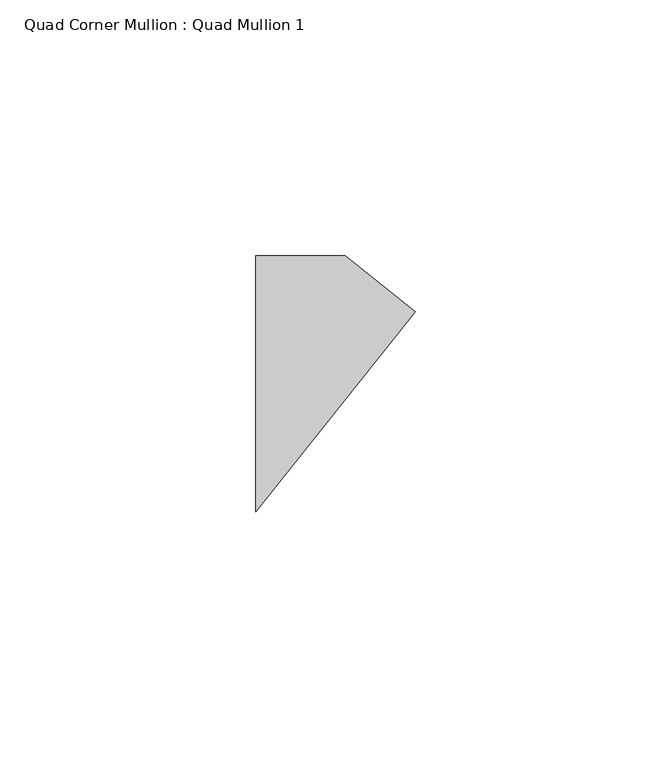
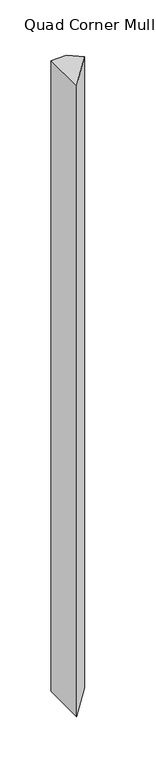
"""IFC4 building model written with IfcOpenShell, lengths in millimetres: member geometry, Quad Corner Mullion : Quad Mullion 1."""

from ifc_helpers import new_model, si_unit, frame, origin, place, context, project, spatial, polyline, outline, extrude, source, transform, mapped, element, save


def quad_corner_mullion_quad_mullion_1_7515dca0(model_context):
    return source(origin(), model_context, "Body", "SweptSolid", [
        extrude(outline(polyline([(22.4169637, 14.1035695), (-8.7424787, -25.0), (-8.7424787, 25.0), (8.7424787, 25.0), (22.4169637, 14.1035695)])), frame((0.0, 0.0, -750.0), z_axis=(0.0, 0.0, 1.0), x_axis=(1.0, 0.0, 0.0)), (0.0, 0.0, 1.0), 750.0),
    ])


if __name__ == "__main__":
    model = new_model("IFC4")
    model_context = context("Model", 3, world=origin())
    ifc_project = project(units=[si_unit("LENGTHUNIT", "METRE", prefix="MILLI")], contexts=[model_context])
    site = spatial("IfcSite", under=ifc_project)
    building = spatial("IfcBuilding", under=site)
    placement = place(None, origin())
    quad_corner_mullion_quad_mullion_1_shape = quad_corner_mullion_quad_mullion_1_7515dca0(model_context)
    element("IfcMember", 1, ObjectType="Quad Corner Mullion : Quad Mullion 1", at=placement, inside=building, context=model_context, shape_type="MappedRepresentation", body=[
        mapped(quad_corner_mullion_quad_mullion_1_shape, transform((0.0, 0.0, 0.0), x_axis=(1.0, 0.0, 0.0), y_axis=(0.0, 1.0, 0.0), z_axis=(0.0, 0.0, 1.0))),
    ])
    save(model, "model.ifc")
